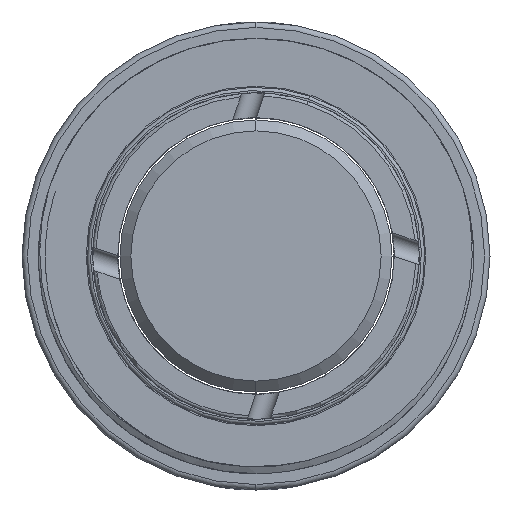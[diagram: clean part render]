
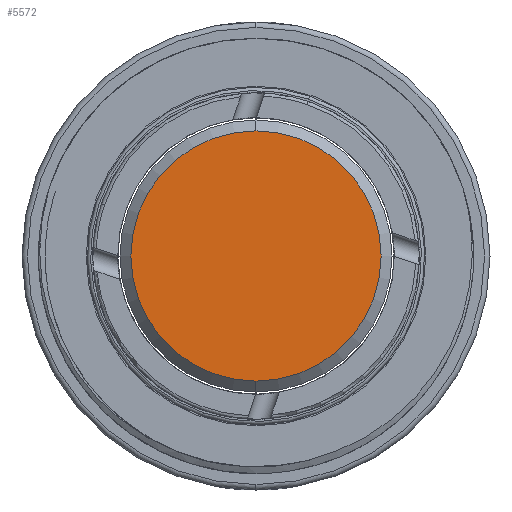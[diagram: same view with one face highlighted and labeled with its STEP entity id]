
A CAD part, left-side view. The second image highlights one B-rep face of the part: STEP entity #5572.
In plain terms, the highlighted planar face has unit normal (-1, 0, 0).
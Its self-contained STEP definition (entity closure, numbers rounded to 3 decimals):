
#432 = ORIENTED_EDGE ( 'NONE', *, *, #2747, .T. ) ;
#683 = DIRECTION ( 'NONE',  ( -1., 0., 0. ) ) ;
#726 = DIRECTION ( 'NONE',  ( 0., 0., 1. ) ) ;
#947 = CARTESIAN_POINT ( 'NONE',  ( -10., 0., 0. ) ) ;
#1808 = EDGE_LOOP ( 'NONE', ( #432, #5447 ) ) ;
#2263 = CARTESIAN_POINT ( 'NONE',  ( -10., 0., -11.5 ) ) ;
#2695 = VERTEX_POINT ( 'NONE', #4038 ) ;
#2747 = EDGE_CURVE ( 'NONE', #3362, #2695, #5253, .T. ) ;
#2791 = PLANE ( 'NONE',  #4518 ) ;
#2971 = DIRECTION ( 'NONE',  ( 0., 0., 1. ) ) ;
#3362 = VERTEX_POINT ( 'NONE', #2263 ) ;
#3473 = FACE_OUTER_BOUND ( 'NONE', #1808, .T. ) ;
#4038 = CARTESIAN_POINT ( 'NONE',  ( -10., 0., 11.5 ) ) ;
#4509 = AXIS2_PLACEMENT_3D ( 'NONE', #947, #6572, #6595 ) ;
#4518 = AXIS2_PLACEMENT_3D ( 'NONE', #5974, #5995, #2971 ) ;
#4853 = EDGE_CURVE ( 'NONE', #2695, #3362, #5641, .T. ) ;
#5236 = AXIS2_PLACEMENT_3D ( 'NONE', #5273, #683, #726 ) ;
#5253 = CIRCLE ( 'NONE', #4509, 11.5 ) ;
#5273 = CARTESIAN_POINT ( 'NONE',  ( -10., 0., 0. ) ) ;
#5447 = ORIENTED_EDGE ( 'NONE', *, *, #4853, .T. ) ;
#5572 = ADVANCED_FACE ( 'NONE', ( #3473 ), #2791, .T. ) ;
#5641 = CIRCLE ( 'NONE', #5236, 11.5 ) ;
#5974 = CARTESIAN_POINT ( 'NONE',  ( -10., 0., 0. ) ) ;
#5995 = DIRECTION ( 'NONE',  ( -1., 0., 0. ) ) ;
#6572 = DIRECTION ( 'NONE',  ( -1., 0., 0. ) ) ;
#6595 = DIRECTION ( 'NONE',  ( 0., 0., 1. ) ) ;
